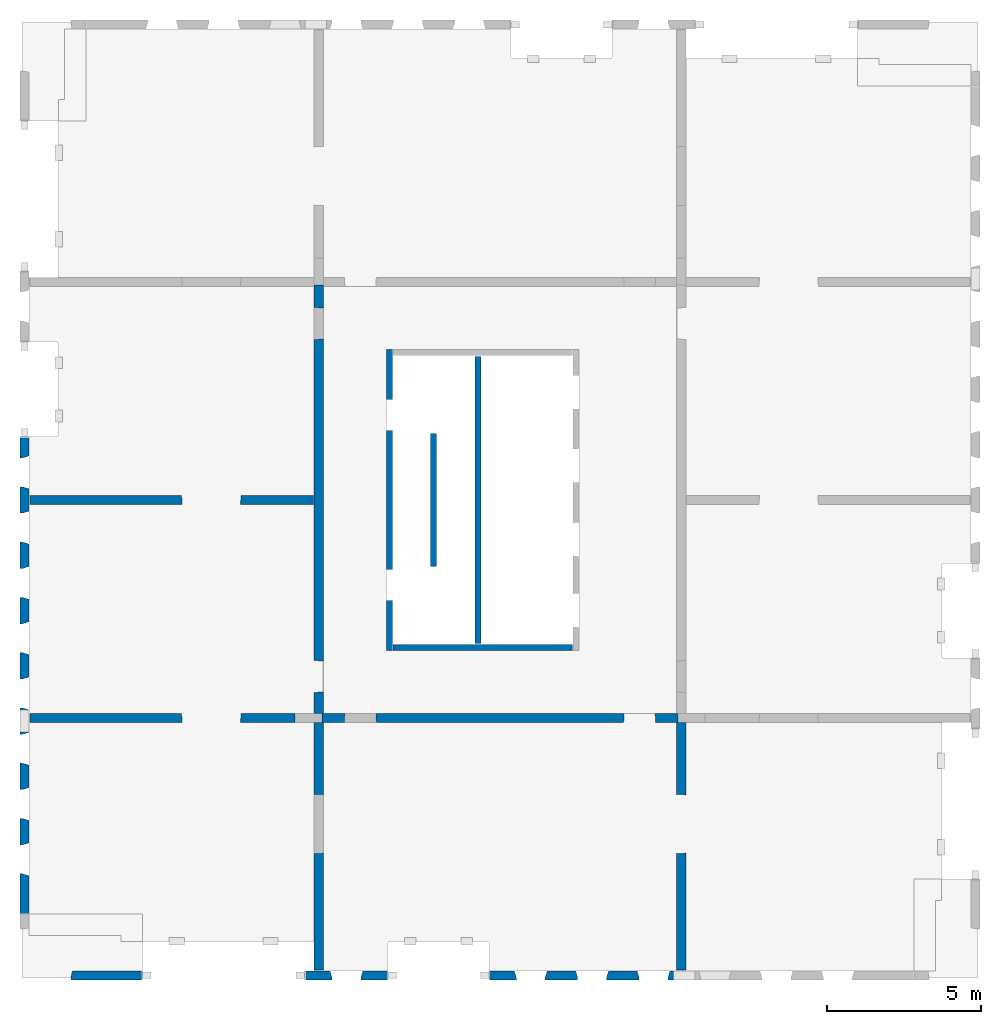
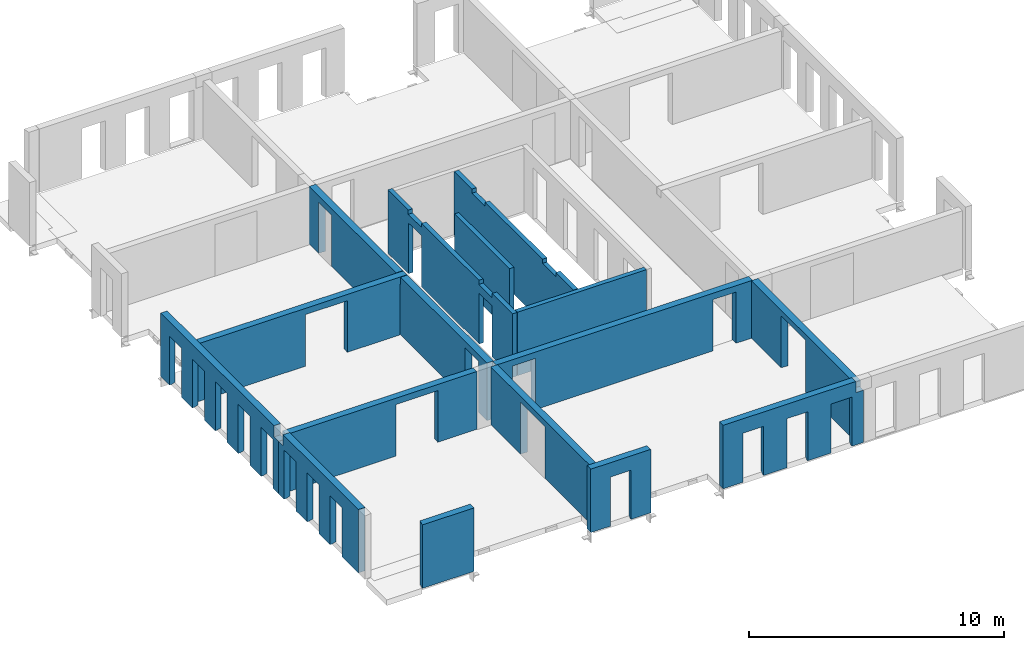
# One storey, part 2 of 5: 15 walls, 38 openings.
"""IFC2X3 building model written with IfcOpenShell, lengths in millimetres."""

from ifc_helpers import new_model, entity, si_unit, converted_unit, derived_unit, direction, frame, frame_2d, origin, origin_2d_with_axis, place, context, subcontext, project, spatial, rectangle, extrude, faceted_brep, material, layer, layer_set, layer_usage, type_object, element, save


model = new_model("IFC2X3")

# Units and contexts
model_context = context("Model", 3, precision=0.01, world=origin(), true_north=direction((6.12303176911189e-17, 1.0)))
body_context = subcontext(model_context, "Body", "Model", "MODEL_VIEW")
ifc_project = project(units=[si_unit("LENGTHUNIT", "METRE", prefix="MILLI"), si_unit("AREAUNIT", "SQUARE_METRE"), si_unit("VOLUMEUNIT", "CUBIC_METRE"), converted_unit("PLANEANGLEUNIT", "DEGREE", entity("IfcRatioMeasure", 0.0174532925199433), si_unit("PLANEANGLEUNIT", "RADIAN"), dimensions=[0, 0, 0, 0, 0, 0, 0]), si_unit("MASSUNIT", "GRAM", prefix="KILO"), derived_unit("MASSDENSITYUNIT", [(si_unit("MASSUNIT", "GRAM", prefix="KILO"), 1), (si_unit("LENGTHUNIT", "METRE"), -3)]), si_unit("TIMEUNIT", "SECOND"), si_unit("FREQUENCYUNIT", "HERTZ"), si_unit("THERMODYNAMICTEMPERATUREUNIT", "DEGREE_CELSIUS"), derived_unit("THERMALTRANSMITTANCEUNIT", [(si_unit("MASSUNIT", "GRAM", prefix="KILO"), 1), (si_unit("THERMODYNAMICTEMPERATUREUNIT", "KELVIN"), -1), (si_unit("TIMEUNIT", "SECOND"), -3)]), derived_unit("VOLUMETRICFLOWRATEUNIT", [(si_unit("LENGTHUNIT", "METRE"), 3), (si_unit("TIMEUNIT", "SECOND"), -1)]), si_unit("ELECTRICCURRENTUNIT", "AMPERE"), si_unit("ELECTRICVOLTAGEUNIT", "VOLT"), si_unit("POWERUNIT", "WATT"), si_unit("FORCEUNIT", "NEWTON", prefix="KILO"), si_unit("ILLUMINANCEUNIT", "LUX"), si_unit("LUMINOUSFLUXUNIT", "LUMEN"), si_unit("LUMINOUSINTENSITYUNIT", "CANDELA"), derived_unit("USERDEFINED", [(si_unit("MASSUNIT", "GRAM", prefix="KILO"), -1), (si_unit("LENGTHUNIT", "METRE"), -2), (si_unit("TIMEUNIT", "SECOND"), 3), (si_unit("LUMINOUSFLUXUNIT", "LUMEN"), 1)]), derived_unit("LINEARVELOCITYUNIT", [(si_unit("LENGTHUNIT", "METRE"), 1), (si_unit("TIMEUNIT", "SECOND"), -1)]), si_unit("PRESSUREUNIT", "PASCAL"), derived_unit("USERDEFINED", [(si_unit("LENGTHUNIT", "METRE"), -2), (si_unit("MASSUNIT", "GRAM", prefix="KILO"), 1), (si_unit("TIMEUNIT", "SECOND"), -2)])], contexts=[model_context])

# Site, building, storey
site_placement = place(None, origin())
site = spatial("IfcSite", under=ifc_project, at=site_placement, Name="Default", CompositionType="ELEMENT")
building_placement = place(site_placement, origin())
building = spatial("IfcBuilding", under=site, at=building_placement, Name="niet gebruiken", CompositionType="ELEMENT")
storey_placement = place(building_placement, frame((0.0, 0.0, 155700.0)))
storey = spatial("IfcBuildingStorey", under=building, at=storey_placement, Name="50 vijftigste verdieping", CompositionType="ELEMENT", Elevation=155700.0)

# Wall, openings
ifc_material = material(Name="NLRS_f2_beton prefab")
ifc_layer_1 = layer(ifc_material, 200.0)
ifc_layer_set_1 = layer_set([ifc_layer_1], Name="Basic Wall:NLRS_22.21_WA_beton prefab d=200_gen")
ifc_layer_usage_1 = layer_usage(ifc_layer_set_1, "AXIS2", "NEGATIVE", 100.0)
wall_type_1 = type_object("IfcWallType", Name="Basic Wall:NLRS_22.21_WA_beton prefab d=200_gen", PredefinedType="STANDARD", material=ifc_layer_set_1)
wall_1_placement = place(storey_placement, frame((138150.0, 22400.0, -50.0), z_axis=(0.0, 0.0, 1.0), x_axis=(0.0, -1.0, 0.0)))
wall_1 = element("IfcWallStandardCase", 1, at=wall_1_placement, inside=storey, type_object=wall_type_1, material=ifc_layer_usage_1, Name="Basic Wall:NLRS_22.21_WA_beton prefab d=200_gen", ObjectType="Basic Wall:NLRS_22.21_WA_beton prefab d=200_gen", context=body_context, shape_type="SweptSolid", body=[
    extrude(rectangle(XDim=9800.0, YDim=199.999999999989, at=frame_2d((4900.0, 3.76587649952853e-13), x_axis=(-1.0, 0.0))), origin(), (0.0, 0.0, 1.0), 3040.0),
])
opening_1_placement = place(wall_1_placement, origin())
element("IfcOpeningElement", 2, at=opening_1_placement, cuts=wall_1, Name="Basic Wall:NLRS_22.21_WA_beton prefab d=200_gen", ObjectType="Opening", context=body_context, shape_type="SweptSolid", body=[
    extrude(rectangle(XDim=200.000000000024, YDim=1044.0, at=origin_2d_with_axis()), frame((7672.0, -100.0, 2940.0), z_axis=(0.0, 1.0, 0.0), x_axis=(0.0, 0.0, -1.0)), (0.0, 0.0, 1.0), 199.999999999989),
])
opening_2_placement = place(wall_1_placement, origin())
element("IfcOpeningElement", 3, at=opening_2_placement, cuts=wall_1, Name="Basic Wall:NLRS_22.21_WA_beton prefab d=200_gen", ObjectType="Opening", context=body_context, shape_type="SweptSolid", body=[
    extrude(rectangle(XDim=200.000000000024, YDim=1044.0, at=frame_2d((0.0, 2.1600499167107e-12), x_axis=(1.0, 0.0))), frame((2128.0, -100.0, 2940.0), z_axis=(0.0, 1.0, 0.0), x_axis=(0.0, 0.0, -1.0)), (0.0, 0.0, 1.0), 199.999999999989),
])
opening_3_placement = place(wall_1_placement, origin())
element("IfcOpeningElement", 4, at=opening_3_placement, cuts=wall_1, Name="Basic Wall:NLRS_22.21_WA_beton prefab d=200_gen", ObjectType="Opening", context=body_context, shape_type="SweptSolid", body=[
    extrude(rectangle(XDim=2435.0, YDim=1015.99999999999, at=frame_2d((0.0, 1.10844666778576e-12), x_axis=(1.0, 0.0))), frame((7672.0, -100.0, 1217.50000000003), z_axis=(0.0, 1.0, 0.0), x_axis=(0.0, 0.0, -1.0)), (0.0, 0.0, 1.0), 199.999999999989),
])
opening_4_placement = place(wall_1_placement, origin())
element("IfcOpeningElement", 5, at=opening_4_placement, cuts=wall_1, Name="Basic Wall:NLRS_22.21_WA_beton prefab d=200_gen", ObjectType="Opening", context=body_context, shape_type="SweptSolid", body=[
    extrude(rectangle(XDim=2435.0, YDim=1015.99999999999, at=frame_2d((0.0, -2.18847162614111e-12), x_axis=(1.0, 0.0))), frame((2128.0, -100.0, 1217.50000000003), z_axis=(0.0, 1.0, 0.0), x_axis=(0.0, 0.0, -1.0)), (0.0, 0.0, 1.0), 199.999999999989),
])

ifc_layer_usage_2 = layer_usage(ifc_layer_set_1, "AXIS2", "NEGATIVE", 100.0)
wall_2_placement = place(storey_placement, frame((141030.0, 22180.0, -50.0), z_axis=(0.0, 0.0, 1.0), x_axis=(0.0, -1.0, 0.0)))
wall_2 = element("IfcWallStandardCase", 6, at=wall_2_placement, inside=storey, type_object=wall_type_1, material=ifc_layer_usage_2, Name="Basic Wall:NLRS_22.21_WA_beton prefab d=200_gen", ObjectType="Basic Wall:NLRS_22.21_WA_beton prefab d=200_gen", context=body_context, shape_type="SweptSolid", body=[
    extrude(rectangle(XDim=9360.0, YDim=199.999999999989, at=frame_2d((4680.0, -2.8421709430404e-14), x_axis=(-1.0, 0.0))), origin(), (0.0, 0.0, 1.0), 3040.0),
])
opening_5_placement = place(wall_2_placement, origin())
element("IfcOpeningElement", 7, at=opening_5_placement, cuts=wall_2, Name="Basic Wall:NLRS_22.21_WA_beton prefab d=200_gen", ObjectType="Opening", context=body_context, shape_type="SweptSolid", body=[
    extrude(rectangle(XDim=70.0000000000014, YDim=1044.00000000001, at=frame_2d((-8.66506866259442e-12, 0.0), x_axis=(1.0, 0.0))), frame((7452.0, -100.0, 35.0), z_axis=(0.0, 1.0, 0.0), x_axis=(0.0, 0.0, -1.0)), (0.0, 0.0, 1.0), 199.999999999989),
])
opening_6_placement = place(wall_2_placement, origin())
element("IfcOpeningElement", 8, at=opening_6_placement, cuts=wall_2, Name="Basic Wall:NLRS_22.21_WA_beton prefab d=200_gen", ObjectType="Opening", context=body_context, shape_type="SweptSolid", body=[
    extrude(rectangle(XDim=70.0000000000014, YDim=1044.00000000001, at=frame_2d((-8.66506866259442e-12, 0.0), x_axis=(1.0, 0.0))), frame((1908.0, -100.0, 35.0), z_axis=(0.0, 1.0, 0.0), x_axis=(0.0, 0.0, -1.0)), (0.0, 0.0, 1.0), 199.999999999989),
])
opening_7_placement = place(wall_2_placement, origin())
element("IfcOpeningElement", 9, at=opening_7_placement, cuts=wall_2, Name="Basic Wall:NLRS_22.21_WA_beton prefab d=200_gen", ObjectType="Opening", context=body_context, shape_type="SweptSolid", body=[
    extrude(rectangle(XDim=200.000000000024, YDim=1044.00000000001, at=origin_2d_with_axis()), frame((1908.0, -100.0, 2940.0), z_axis=(0.0, 1.0, 0.0), x_axis=(0.0, 0.0, -1.0)), (0.0, 0.0, 1.0), 199.999999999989),
])
opening_8_placement = place(wall_2_placement, origin())
element("IfcOpeningElement", 10, at=opening_8_placement, cuts=wall_2, Name="Basic Wall:NLRS_22.21_WA_beton prefab d=200_gen", ObjectType="Opening", context=body_context, shape_type="SweptSolid", body=[
    extrude(rectangle(XDim=200.000000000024, YDim=1044.00000000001, at=origin_2d_with_axis()), frame((7452.0, -100.0, 2940.0), z_axis=(0.0, 1.0, 0.0), x_axis=(0.0, 0.0, -1.0)), (0.0, 0.0, 1.0), 199.999999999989),
])
opening_9_placement = place(wall_2_placement, origin())
element("IfcOpeningElement", 11, at=opening_9_placement, cuts=wall_2, Name="Basic Wall:NLRS_22.21_WA_beton prefab d=200_gen", ObjectType="Recess", context=body_context, shape_type="SweptSolid", body=[
    extrude(rectangle(XDim=399.999999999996, YDim=280.000000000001, at=frame_2d((-2.1600499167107e-12, 8.66862137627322e-12), x_axis=(0.0, 1.0))), frame((770.0, -60.0, 438.0), z_axis=(0.0, 1.0, 0.0), x_axis=(1.0, 0.0, 0.0)), (0.0, 0.0, 1.0), 159.999999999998),
])
opening_10_placement = place(wall_2_placement, origin())
element("IfcOpeningElement", 12, at=opening_10_placement, cuts=wall_2, Name="Basic Wall:NLRS_22.21_WA_beton prefab d=200_gen", ObjectType="Recess", context=body_context, shape_type="SweptSolid", body=[
    extrude(rectangle(XDim=399.999999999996, YDim=280.000000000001, at=frame_2d((-2.1600499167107e-12, 8.66862137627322e-12), x_axis=(0.0, 1.0))), frame((1570.0, -60.0, 438.0), z_axis=(0.0, 1.0, 0.0), x_axis=(1.0, 0.0, 0.0)), (0.0, 0.0, 1.0), 159.999999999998),
])
opening_11_placement = place(wall_2_placement, origin())
element("IfcOpeningElement", 13, at=opening_11_placement, cuts=wall_2, Name="Basic Wall:NLRS_22.21_WA_beton prefab d=200_gen", ObjectType="Recess", context=body_context, shape_type="SweptSolid", body=[
    extrude(rectangle(XDim=399.999999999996, YDim=279.999999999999, at=frame_2d((-1.08002495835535e-12, 8.66862137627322e-12), x_axis=(0.0, 1.0))), frame((3160.0, -60.0, 438.0), z_axis=(0.0, 1.0, 0.0), x_axis=(1.0, 0.0, 0.0)), (0.0, 0.0, 1.0), 159.999999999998),
])
opening_12_placement = place(wall_2_placement, origin())
element("IfcOpeningElement", 14, at=opening_12_placement, cuts=wall_2, Name="Basic Wall:NLRS_22.21_WA_beton prefab d=200_gen", ObjectType="Recess", context=body_context, shape_type="SweptSolid", body=[
    extrude(rectangle(XDim=399.999999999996, YDim=279.999999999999, at=frame_2d((1.08002495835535e-12, 8.66862137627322e-12), x_axis=(0.0, 1.0))), frame((3960.0, -60.0, 438.0), z_axis=(0.0, 1.0, 0.0), x_axis=(1.0, 0.0, 0.0)), (0.0, 0.0, 1.0), 159.999999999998),
])

# Walls
ifc_layer_usage_3 = layer_usage(ifc_layer_set_1, "AXIS2", "NEGATIVE", 100.0)
wall_3_placement = place(storey_placement, frame((139590.0, 19660.0, -50.0), z_axis=(0.0, 0.0, 1.0), x_axis=(0.0, -1.0, 0.0)))
element("IfcWallStandardCase", 15, at=wall_3_placement, inside=storey, type_object=wall_type_1, material=ifc_layer_usage_3, Name="Basic Wall:NLRS_22.21_WA_beton prefab d=200_gen", ObjectType="Basic Wall:NLRS_22.21_WA_beton prefab d=200_gen", context=body_context, shape_type="SweptSolid", body=[
    extrude(rectangle(XDim=4320.00000000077, YDim=199.999999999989, at=frame_2d((2160.00000000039, 0.0), x_axis=(-1.0, 0.0))), origin(), (0.0, 0.0, 1.0), 3040.0),
])
ifc_layer_usage_4 = layer_usage(ifc_layer_set_1, "AXIS2", "NEGATIVE", 100.0)
wall_4_placement = place(storey_placement, frame((138270.0, 12700.0, -50.0)))
element("IfcWallStandardCase", 16, at=wall_4_placement, inside=storey, type_object=wall_type_1, material=ifc_layer_usage_4, Name="Basic Wall:NLRS_22.21_WA_beton prefab d=200_gen", ObjectType="Basic Wall:NLRS_22.21_WA_beton prefab d=200_gen", context=body_context, shape_type="SweptSolid", body=[
    extrude(rectangle(XDim=5839.99999999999, YDim=199.999999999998, at=frame_2d((2919.99999999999, -6.82121026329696e-13), x_axis=(-1.0, 0.0))), origin(), (0.0, 0.0, 1.0), 3040.0),
])

# Wall, opening
ifc_layer_2 = layer(ifc_material, 300.0)
ifc_layer_set_2 = layer_set([ifc_layer_2], Name="Basic Wall:NLRS_22.21_WA_beton prefab d=300_gen")
ifc_layer_usage_5 = layer_usage(ifc_layer_set_2, "AXIS2", "NEGATIVE", 150.0)
wall_type_2 = type_object("IfcWallType", Name="Basic Wall:NLRS_22.21_WA_beton prefab d=300_gen", PredefinedType="STANDARD", material=ifc_layer_set_2)
wall_5_placement = place(storey_placement, frame((135850.0, 10250.0, -60.0), z_axis=(0.0, 0.0, 1.0), x_axis=(0.0, -1.0, 0.0)))
wall_5 = element("IfcWallStandardCase", 17, at=wall_5_placement, inside=storey, type_object=wall_type_2, material=ifc_layer_usage_5, Name="Basic Wall:NLRS_22.21_WA_beton prefab d=300_gen", ObjectType="Basic Wall:NLRS_22.21_WA_beton prefab d=300_gen", context=body_context, shape_type="SweptSolid", body=[
    extrude(rectangle(XDim=8059.99999999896, YDim=300.000000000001, at=frame_2d((4029.99999999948, 1.22213350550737e-12), x_axis=(-1.0, 0.0))), origin(), (0.0, 0.0, 1.0), 2760.0),
])
opening_13_placement = place(wall_5_placement, frame((4268.0, -150.0, -10.0)))
element("IfcOpeningElement", 18, at=opening_13_placement, cuts=wall_5, Name="Basic Wall:NLRS_22.21_WA_beton prefab d=300_gen", ObjectType="Opening", context=body_context, shape_type="Brep", body=[
    faceted_brep([(-18.0, 300.0, 2470.0), (-18.0, 300.0, 0.0), (-1918.0, 300.0, 0.0), (-1918.0, 300.0, 2470.0), (0.0, 0.0, 2488.0), (-1936.0, 0.0, 2488.0), (-1936.0, 0.0, 0.0), (0.0, 0.0, 0.0)], [[[0, 1, 2, 3]], [[4, 5, 6, 7]], [[4, 0, 3, 5]], [[5, 3, 2, 6]], [[6, 2, 1, 7]], [[7, 1, 0, 4]]]),
])

ifc_layer_usage_6 = layer_usage(ifc_layer_set_2, "AXIS2", "NEGATIVE", 150.0)
wall_6_placement = place(storey_placement, frame((147650.0, 10250.0, -60.0), z_axis=(0.0, 0.0, 1.0), x_axis=(0.0, -1.0, 0.0)))
wall_6 = element("IfcWallStandardCase", 19, at=wall_6_placement, inside=storey, type_object=wall_type_2, material=ifc_layer_usage_6, Name="Basic Wall:NLRS_22.21_WA_beton prefab d=300_gen", ObjectType="Basic Wall:NLRS_22.21_WA_beton prefab d=300_gen", context=body_context, shape_type="SweptSolid", body=[
    extrude(rectangle(XDim=8059.99999999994, YDim=300.000000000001, at=frame_2d((4029.99999999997, 3.69482222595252e-13), x_axis=(-1.0, 0.0))), origin(), (0.0, 0.0, 1.0), 2760.0),
])
opening_14_placement = place(wall_6_placement, frame((4268.0, -150.0, -10.0)))
element("IfcOpeningElement", 20, at=opening_14_placement, cuts=wall_6, Name="Basic Wall:NLRS_22.21_WA_beton prefab d=300_gen", ObjectType="Opening", context=body_context, shape_type="Brep", body=[
    faceted_brep([(-18.0, 300.0, 2470.0), (-18.0, 300.0, 0.0), (-1918.0, 300.0, 0.0), (-1918.0, 300.0, 2470.0), (0.0, 0.0, 2488.0), (-1936.0, 0.0, 2488.0), (-1936.0, 0.0, 0.0), (0.0, 0.0, 0.0)], [[[0, 1, 2, 3]], [[4, 5, 6, 7]], [[4, 0, 3, 5]], [[5, 3, 2, 6]], [[6, 2, 1, 7]], [[7, 1, 0, 4]]]),
])

# Wall, openings
ifc_layer_usage_7 = layer_usage(ifc_layer_set_2, "AXIS2", "NEGATIVE", 150.0)
wall_7_placement = place(storey_placement, frame((135950.003540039, 10400.0, -60.0)))
wall_7 = element("IfcWallStandardCase", 21, at=wall_7_placement, inside=storey, type_object=wall_type_2, material=ifc_layer_usage_7, Name="Basic Wall:NLRS_22.21_WA_beton prefab d=300_gen", ObjectType="Basic Wall:NLRS_22.21_WA_beton prefab d=300_gen", context=body_context, shape_type="SweptSolid", body=[
    extrude(rectangle(XDim=11599.9964599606, YDim=300.000000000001, at=frame_2d((5799.99822998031, 1.70530256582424e-13), x_axis=(-1.0, 0.0))), origin(), (0.0, 0.0, 1.0), 2760.0),
])
opening_15_placement = place(wall_7_placement, frame((731.996459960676, -150.0, -10.0)))
element("IfcOpeningElement", 22, at=opening_15_placement, cuts=wall_7, Name="Basic Wall:NLRS_22.21_WA_beton prefab d=300_gen", ObjectType="Opening", context=body_context, shape_type="Brep", body=[
    faceted_brep([(0.0, 0.0, 2466.0), (18.0, 300.0, 2448.0), (18.0, 300.0, 0.0), (0.0, 0.0, 0.0), (1024.0, 300.0, 0.0), (1042.0, 0.0, 0.0), (1024.0, 300.0, 2448.0), (1042.0, 0.0, 2466.0)], [[[0, 1, 2, 3]], [[3, 2, 4, 5]], [[6, 4, 2, 1]], [[7, 0, 3, 5]], [[7, 6, 1, 0]], [[5, 4, 6, 7]]]),
])
opening_16_placement = place(wall_7_placement, frame((9825.99645996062, -150.0, -10.0)))
element("IfcOpeningElement", 23, at=opening_16_placement, cuts=wall_7, Name="Basic Wall:NLRS_22.21_WA_beton prefab d=300_gen", ObjectType="Opening", context=body_context, shape_type="Brep", body=[
    faceted_brep([(0.0, 0.0, 2466.0), (18.0, 300.0, 2448.0), (18.0, 300.0, 0.0), (0.0, 0.0, 0.0), (1024.0, 300.0, 0.0), (1042.0, 0.0, 0.0), (1024.0, 300.0, 2448.0), (1042.0, 0.0, 2466.0)], [[[0, 1, 2, 3]], [[3, 2, 4, 5]], [[6, 4, 2, 1]], [[7, 0, 3, 5]], [[7, 6, 1, 0]], [[5, 4, 6, 7]]]),
])

ifc_layer_usage_8 = layer_usage(ifc_layer_set_2, "AXIS2", "NEGATIVE", 150.0)
wall_8_placement = place(storey_placement, frame((126440.0, 17500.0, -70.0)))
wall_8 = element("IfcWallStandardCase", 24, at=wall_8_placement, inside=storey, type_object=wall_type_2, material=ifc_layer_usage_8, Name="Basic Wall:NLRS_22.21_WA_beton prefab d=300_gen", ObjectType="Basic Wall:NLRS_22.21_WA_beton prefab d=300_gen", context=body_context, shape_type="SweptSolid", body=[
    extrude(rectangle(XDim=9559.9999999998, YDim=300.000000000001, at=frame_2d((4779.9999999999, -5.54223333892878e-13), x_axis=(-1.0, 0.0))), origin(), (0.0, 0.0, 1.0), 2769.99999999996),
])
opening_17_placement = place(wall_8_placement, frame((4942.0, -150.0, 0.0)))
element("IfcOpeningElement", 25, at=opening_17_placement, cuts=wall_8, Name="Basic Wall:NLRS_22.21_WA_beton prefab d=300_gen", ObjectType="Opening", context=body_context, shape_type="Brep", body=[
    faceted_brep([(1918.0, 0.0, 2470.0), (18.0, 0.0, 2470.0), (18.0, 0.0, 0.0), (1918.0, 0.0, 0.0), (1936.0, 300.0, 2488.0), (1936.0, 300.0, 0.0), (0.0, 300.0, 0.0), (0.0, 300.0, 2488.0)], [[[0, 1, 2, 3]], [[4, 5, 6, 7]], [[4, 7, 1, 0]], [[7, 6, 2, 1]], [[6, 5, 3, 2]], [[5, 4, 0, 3]]]),
])
opening_18_placement = place(wall_8_placement, origin())
element("IfcOpeningElement", 26, at=opening_18_placement, cuts=wall_8, Name="Basic Wall:NLRS_22.21_WA_beton prefab d=300_gen", ObjectType="Opening", context=body_context, shape_type="SweptSolid", body=[
    extrude(rectangle(XDim=2439.99999999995, YDim=319.999999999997, at=frame_2d((0.0, 2.59205990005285e-11), x_axis=(0.0, 1.0))), frame((9400.0, 150.0, 1220.0), z_axis=(0.0, -1.0, 0.0), x_axis=(1.0, 0.0, 0.0)), (0.0, 0.0, 1.0), 300.0),
])

# Wall, opening
ifc_layer_usage_9 = layer_usage(ifc_layer_set_2, "AXIS2", "NEGATIVE", 150.0)
wall_9_placement = place(storey_placement, frame((126440.0, 10400.0, -70.0)))
wall_9 = element("IfcWallStandardCase", 27, at=wall_9_placement, inside=storey, type_object=wall_type_2, material=ifc_layer_usage_9, Name="Basic Wall:NLRS_22.21_WA_beton prefab d=300_gen", ObjectType="Basic Wall:NLRS_22.21_WA_beton prefab d=300_gen", context=body_context, shape_type="SweptSolid", body=[
    extrude(rectangle(XDim=8630.00354003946, YDim=300.000000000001, at=frame_2d((4315.00177001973, -2.70006239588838e-13), x_axis=(-1.0, 0.0))), origin(), (0.0, 0.0, 1.0), 2769.99999999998),
])
opening_19_placement = place(wall_9_placement, frame((4942.0, -150.0, 0.0)))
element("IfcOpeningElement", 28, at=opening_19_placement, cuts=wall_9, Name="Basic Wall:NLRS_22.21_WA_beton prefab d=300_gen", ObjectType="Opening", context=body_context, shape_type="Brep", body=[
    faceted_brep([(1918.0, 0.0, 2470.0), (18.0, 0.0, 2470.0), (18.0, 0.0, 0.0), (1918.0, 0.0, 0.0), (1936.0, 300.0, 2488.0), (1936.0, 300.0, 0.0), (0.0, 300.0, 0.0), (0.0, 300.0, 2488.0)], [[[0, 1, 2, 3]], [[4, 5, 6, 7]], [[4, 7, 1, 0]], [[7, 6, 2, 1]], [[6, 5, 3, 2]], [[5, 4, 0, 3]]]),
])

# Wall, openings
ifc_layer_usage_10 = layer_usage(ifc_layer_set_2, "AXIS2", "NEGATIVE", 150.0)
wall_10_placement = place(storey_placement, frame((135850.0, 24500.0, -60.0), z_axis=(0.0, 0.0, 1.0), x_axis=(0.0, -1.0, 0.0)))
wall_10 = element("IfcWallStandardCase", 29, at=wall_10_placement, inside=storey, type_object=wall_type_2, material=ifc_layer_usage_10, Name="Basic Wall:NLRS_22.21_WA_beton prefab d=300_gen", ObjectType="Basic Wall:NLRS_22.21_WA_beton prefab d=300_gen", context=body_context, shape_type="SweptSolid", body=[
    extrude(rectangle(XDim=13949.999999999, YDim=300.000000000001, at=frame_2d((6974.99999999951, 4.2632564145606e-14), x_axis=(-1.0, 0.0))), origin(), (0.0, 0.0, 1.0), 2760.0),
])
opening_20_placement = place(wall_10_placement, frame((13268.0, -150.0, -10.0)))
element("IfcOpeningElement", 30, at=opening_20_placement, cuts=wall_10, Name="Basic Wall:NLRS_22.21_WA_beton prefab d=300_gen", ObjectType="Opening", context=body_context, shape_type="Brep", body=[
    faceted_brep([(-1042.0, 0.0, 2466.0), (-1024.0, 300.0, 2448.0), (-1024.0, 300.0, 0.0), (-1042.0, 0.0, 0.0), (-18.0, 300.0, 0.0), (0.0, 0.0, 0.0), (-18.0, 300.0, 2448.0), (0.0, 0.0, 2466.0)], [[[0, 1, 2, 3]], [[3, 2, 4, 5]], [[6, 4, 2, 1]], [[7, 0, 3, 5]], [[7, 6, 1, 0]], [[5, 4, 6, 7]]]),
])
opening_21_placement = place(wall_10_placement, frame((1774.0, -150.0, -10.0)))
element("IfcOpeningElement", 31, at=opening_21_placement, cuts=wall_10, Name="Basic Wall:NLRS_22.21_WA_beton prefab d=300_gen", ObjectType="Opening", context=body_context, shape_type="Brep", body=[
    faceted_brep([(-1042.0, 0.0, 2466.0), (-1024.0, 300.0, 2448.0), (-1024.0, 300.0, 0.0), (-1042.0, 0.0, 0.0), (-18.0, 300.0, 0.0), (0.0, 0.0, 0.0), (-18.0, 300.0, 2448.0), (0.0, 0.0, 2466.0)], [[[0, 1, 2, 3]], [[3, 2, 4, 5]], [[6, 4, 2, 1]], [[7, 0, 3, 5]], [[7, 6, 1, 0]], [[5, 4, 6, 7]]]),
])
opening_22_placement = place(wall_10_placement, origin())
element("IfcOpeningElement", 32, at=opening_22_placement, cuts=wall_10, Name="Basic Wall:NLRS_22.21_WA_beton prefab d=300_gen", ObjectType="Opening", context=body_context, shape_type="SweptSolid", body=[
    extrude(rectangle(XDim=350.000000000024, YDim=339.999999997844, at=frame_2d((0.0, 0.0), x_axis=(0.0, 1.0))), frame((7000.0, 150.0, 2585.0), z_axis=(0.0, -1.0, 0.0), x_axis=(-1.0, 0.0, 0.0)), (0.0, 0.0, 1.0), 300.0),
])

# Wall, opening
ifc_layer_3 = layer(ifc_material, 300.0)
ifc_layer_set_3 = layer_set([ifc_layer_3], Name="Basic Wall:NLRS_21.21_WA_beton prefab d=300/320_gen")
ifc_layer_usage_11 = layer_usage(ifc_layer_set_3, "AXIS2", "NEGATIVE", 150.0)
wall_type_3 = type_object("IfcWallType", Name="Basic Wall:NLRS_21.21_WA_beton prefab d=300/320_gen", PredefinedType="STANDARD", material=ifc_layer_set_3)
wall_11_placement = place(storey_placement, frame((138110.0, 2020.0, -50.0), z_axis=(0.0, 0.0, 1.0), x_axis=(-1.0, 0.0, 0.0)))
wall_11 = element("IfcWallStandardCase", 33, at=wall_11_placement, inside=storey, type_object=wall_type_3, material=ifc_layer_usage_11, Name="Basic Wall:NLRS_21.21_WA_beton prefab d=300/320_gen", ObjectType="Basic Wall:NLRS_21.21_WA_beton prefab d=300/320_gen", context=body_context, shape_type="SweptSolid", body=[
    extrude(rectangle(XDim=2720.00000000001, YDim=300.0, at=frame_2d((1360.0, -8.5265128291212e-14), x_axis=(-1.0, 0.0))), origin(), (0.0, 0.0, 1.0), 3040.0),
])
opening_23_placement = place(wall_11_placement, frame((1895.0, 150.0, -20.0)))
element("IfcOpeningElement", 34, at=opening_23_placement, cuts=wall_11, Name="Basic Wall:NLRS_21.21_WA_beton prefab d=300/320_gen", ObjectType="Opening", context=body_context, shape_type="Brep", body=[
    faceted_brep([(-1070.0, -300.0, 2405.0), (-1070.0, -300.0, 0.0), (0.0, -300.0, 0.0), (0.0, -300.0, 2405.0), (-65.0, -81.0, 2370.0), (-1005.0, -81.0, 2370.0), (-65.0, -81.0, 0.0), (-1005.0, -81.0, 0.0), (-1005.0, 0.0, 0.0), (-65.0, 0.0, 0.0), (-1005.0, 0.0, 2370.0), (-65.0, 0.0, 2370.0)], [[[0, 1, 2, 3]], [[3, 4, 5, 0]], [[2, 6, 4, 3]], [[1, 7, 8, 9, 6, 2]], [[0, 5, 7, 1]], [[10, 11, 9, 8]], [[10, 5, 4, 11]], [[11, 4, 6, 9]], [[8, 7, 5, 10]]]),
])

# Wall, openings
ifc_layer_usage_12 = layer_usage(ifc_layer_set_3, "AXIS2", "NEGATIVE", 150.0)
wall_12_placement = place(storey_placement, frame((126270.0, 4040.0, -50.0), z_axis=(0.0, 0.0, 1.0), x_axis=(0.0, 1.0, 0.0)))
wall_12 = element("IfcWallStandardCase", 35, at=wall_12_placement, inside=storey, type_object=wall_type_3, material=ifc_layer_usage_12, Name="Basic Wall:NLRS_21.21_WA_beton prefab d=300/320_gen", ObjectType="Basic Wall:NLRS_21.21_WA_beton prefab d=300/320_gen", context=body_context, shape_type="SweptSolid", body=[
    extrude(rectangle(XDim=6249.99999999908, YDim=300.000000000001, at=frame_2d((3124.99999999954, 0.0), x_axis=(-1.0, 0.0))), origin(), (0.0, 0.0, 1.0), 3039.99999999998),
])
opening_24_placement = place(wall_12_placement, frame((1225.0, 150.0, -20.0)))
element("IfcOpeningElement", 36, at=opening_24_placement, cuts=wall_12, Name="Basic Wall:NLRS_21.21_WA_beton prefab d=300/320_gen", ObjectType="Opening", context=body_context, shape_type="Brep", body=[
    faceted_brep([(0.0, -300.0, 2405.0), (0.0, -300.0, 0.0), (1070.0, -300.0, 0.0), (1070.0, -300.0, 2405.0), (1005.0, -81.0, 2370.0), (65.0, -81.0, 2370.0), (1005.0, -81.0, 0.0), (65.0, -81.0, 0.0), (65.0, 0.0, 0.0), (1005.0, 0.0, 0.0), (65.0, 0.0, 2370.0), (1005.0, 0.0, 2370.0)], [[[0, 1, 2, 3]], [[3, 4, 5, 0]], [[2, 6, 4, 3]], [[1, 7, 8, 9, 6, 2]], [[0, 5, 7, 1]], [[10, 11, 9, 8]], [[10, 5, 4, 11]], [[11, 4, 6, 9]], [[8, 7, 5, 10]]]),
])
opening_25_placement = place(wall_12_placement, frame((3025.0, 150.0, -20.0)))
element("IfcOpeningElement", 37, at=opening_25_placement, cuts=wall_12, Name="Basic Wall:NLRS_21.21_WA_beton prefab d=300/320_gen", ObjectType="Opening", context=body_context, shape_type="Brep", body=[
    faceted_brep([(0.0, -300.0, 2405.0), (0.0, -300.0, 0.0), (1070.0, -300.0, 0.0), (1070.0, -300.0, 2405.0), (1005.0, -81.0, 2370.0), (65.0, -81.0, 2370.0), (1005.0, -81.0, 0.0), (65.0, -81.0, 0.0), (65.0, 0.0, 0.0), (1005.0, 0.0, 0.0), (65.0, 0.0, 2370.0), (1005.0, 0.0, 2370.0)], [[[0, 1, 2, 3]], [[3, 4, 5, 0]], [[2, 6, 4, 3]], [[1, 7, 8, 9, 6, 2]], [[0, 5, 7, 1]], [[10, 11, 9, 8]], [[10, 5, 4, 11]], [[11, 4, 6, 9]], [[8, 7, 5, 10]]]),
])
opening_26_placement = place(wall_12_placement, frame((4825.0, 150.0, -20.0)))
element("IfcOpeningElement", 38, at=opening_26_placement, cuts=wall_12, Name="Basic Wall:NLRS_21.21_WA_beton prefab d=300/320_gen", ObjectType="Opening", context=body_context, shape_type="Brep", body=[
    faceted_brep([(0.0, -300.0, 2405.0), (0.0, -300.0, 0.0), (1070.0, -300.0, 0.0), (1070.0, -300.0, 2405.0), (1005.0, -81.0, 2370.0), (65.0, -81.0, 2370.0), (1005.0, -81.0, 0.0), (65.0, -81.0, 0.0), (65.0, 0.0, 0.0), (1005.0, 0.0, 0.0), (65.0, 0.0, 2370.0), (1005.0, 0.0, 2370.0)], [[[0, 1, 2, 3]], [[3, 4, 5, 0]], [[2, 6, 4, 3]], [[1, 7, 8, 9, 6, 2]], [[0, 5, 7, 1]], [[10, 11, 9, 8]], [[10, 5, 4, 11]], [[11, 4, 6, 9]], [[8, 7, 5, 10]]]),
])
opening_27_placement = place(wall_12_placement, origin())
element("IfcOpeningElement", 39, at=opening_27_placement, cuts=wall_12, Name="Basic Wall:NLRS_21.21_WA_beton prefab d=300/320_gen", ObjectType="Opening", context=body_context, shape_type="SweptSolid", body=[
    extrude(rectangle(XDim=534.99999999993, YDim=344.999999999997, at=frame_2d((0.0, 1.08002495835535e-12), x_axis=(1.0, 0.0))), frame((6077.49999999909, 150.0, 2772.49999999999), z_axis=(0.0, -1.0, 0.0), x_axis=(0.0, 0.0, 1.0)), (0.0, 0.0, 1.0), 300.0),
])

# Wall, opening
ifc_layer_usage_13 = layer_usage(ifc_layer_set_3, "AXIS2", "NEGATIVE", 150.0)
wall_13_placement = place(storey_placement, frame((130110.0, 2020.0, -50.0), z_axis=(0.0, 0.0, 1.0), x_axis=(-1.0, 0.0, 0.0)))
wall_13 = element("IfcWallStandardCase", 40, at=wall_13_placement, inside=storey, type_object=wall_type_3, material=ifc_layer_usage_13, Name="Basic Wall:NLRS_21.21_WA_beton prefab d=300/320_gen", ObjectType="Basic Wall:NLRS_21.21_WA_beton prefab d=300/320_gen", context=body_context, shape_type="SweptSolid", body=[
    extrude(rectangle(XDim=2330.00000000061, YDim=300.0, at=frame_2d((1165.00000000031, -5.6843418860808e-14), x_axis=(-1.0, 0.0))), origin(), (0.0, 0.0, 1.0), 3040.0),
])
opening_28_placement = place(wall_13_placement, frame((2330.0, 69.0, 0.0)))
element("IfcOpeningElement", 41, at=opening_28_placement, cuts=wall_13, Name="Basic Wall:NLRS_21.21_WA_beton prefab d=300/320_gen", ObjectType="Opening", context=body_context, shape_type="Brep", body=[
    faceted_brep([(0.0, -319.0, 3040.0), (0.0, 0.0, 3040.0), (-65.0, -319.0, 3040.0), (0.0, -319.0, 0.0), (-65.0, -319.0, 0.0), (0.0, 0.0, 0.0)], [[[0, 1, 2]], [[3, 4, 5]], [[2, 4, 3, 0]], [[0, 3, 5, 1]], [[1, 5, 4, 2]]]),
])

# Wall, openings
ifc_layer_usage_14 = layer_usage(ifc_layer_set_3, "AXIS2", "NEGATIVE", 150.0)
wall_14_placement = place(storey_placement, frame((126270.0, 10310.0, -50.0), z_axis=(0.0, 0.0, 1.0), x_axis=(0.0, 1.0, 0.0)))
wall_14 = element("IfcWallStandardCase", 42, at=wall_14_placement, inside=storey, type_object=wall_type_3, material=ifc_layer_usage_14, Name="Basic Wall:NLRS_21.21_WA_beton prefab d=300/320_gen", ObjectType="Basic Wall:NLRS_21.21_WA_beton prefab d=300/320_gen", context=body_context, shape_type="SweptSolid", body=[
    extrude(rectangle(XDim=9250.00000000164, YDim=300.000000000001, at=frame_2d((4625.00000000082, 0.0), x_axis=(-1.0, 0.0))), origin(), (0.0, 0.0, 1.0), 3040.0),
])
opening_29_placement = place(wall_14_placement, frame((7555.0, 150.0, -20.0)))
element("IfcOpeningElement", 43, at=opening_29_placement, cuts=wall_14, Name="Basic Wall:NLRS_21.21_WA_beton prefab d=300/320_gen", ObjectType="Opening", context=body_context, shape_type="Brep", body=[
    faceted_brep([(0.0, -300.0, 2405.0), (0.0, -300.0, 0.0), (1070.0, -300.0, 0.0), (1070.0, -300.0, 2405.0), (1005.0, -81.0, 2370.0), (65.0, -81.0, 2370.0), (1005.0, -81.0, 0.0), (65.0, -81.0, 0.0), (65.0, 0.0, 0.0), (1005.0, 0.0, 0.0), (65.0, 0.0, 2370.0), (1005.0, 0.0, 2370.0)], [[[0, 1, 2, 3]], [[3, 4, 5, 0]], [[2, 6, 4, 3]], [[1, 7, 8, 9, 6, 2]], [[0, 5, 7, 1]], [[10, 11, 9, 8]], [[10, 5, 4, 11]], [[11, 4, 6, 9]], [[8, 7, 5, 10]]]),
])
opening_30_placement = place(wall_14_placement, frame((3955.0, 150.0, -20.0)))
element("IfcOpeningElement", 44, at=opening_30_placement, cuts=wall_14, Name="Basic Wall:NLRS_21.21_WA_beton prefab d=300/320_gen", ObjectType="Opening", context=body_context, shape_type="Brep", body=[
    faceted_brep([(0.0, -300.0, 2405.0), (0.0, -300.0, 0.0), (1070.0, -300.0, 0.0), (1070.0, -300.0, 2405.0), (1005.0, -81.0, 2370.0), (65.0, -81.0, 2370.0), (1005.0, -81.0, 0.0), (65.0, -81.0, 0.0), (65.0, 0.0, 0.0), (1005.0, 0.0, 0.0), (65.0, 0.0, 2370.0), (1005.0, 0.0, 2370.0)], [[[0, 1, 2, 3]], [[3, 4, 5, 0]], [[2, 6, 4, 3]], [[1, 7, 8, 9, 6, 2]], [[0, 5, 7, 1]], [[10, 11, 9, 8]], [[10, 5, 4, 11]], [[11, 4, 6, 9]], [[8, 7, 5, 10]]]),
])
opening_31_placement = place(wall_14_placement, frame((2155.0, 150.0, -20.0)))
element("IfcOpeningElement", 45, at=opening_31_placement, cuts=wall_14, Name="Basic Wall:NLRS_21.21_WA_beton prefab d=300/320_gen", ObjectType="Opening", context=body_context, shape_type="Brep", body=[
    faceted_brep([(0.0, -300.0, 2405.0), (0.0, -300.0, 0.0), (1070.0, -300.0, 0.0), (1070.0, -300.0, 2405.0), (1005.0, -81.0, 2370.0), (65.0, -81.0, 2370.0), (1005.0, -81.0, 0.0), (65.0, -81.0, 0.0), (65.0, 0.0, 0.0), (1005.0, 0.0, 0.0), (65.0, 0.0, 2370.0), (1005.0, 0.0, 2370.0)], [[[0, 1, 2, 3]], [[3, 4, 5, 0]], [[2, 6, 4, 3]], [[1, 7, 8, 9, 6, 2]], [[0, 5, 7, 1]], [[10, 11, 9, 8]], [[10, 5, 4, 11]], [[11, 4, 6, 9]], [[8, 7, 5, 10]]]),
])
opening_32_placement = place(wall_14_placement, frame((5755.0, 150.0, -20.0)))
element("IfcOpeningElement", 46, at=opening_32_placement, cuts=wall_14, Name="Basic Wall:NLRS_21.21_WA_beton prefab d=300/320_gen", ObjectType="Opening", context=body_context, shape_type="Brep", body=[
    faceted_brep([(0.0, -300.0, 2405.0), (0.0, -300.0, 0.0), (1070.0, -300.0, 0.0), (1070.0, -300.0, 2405.0), (1005.0, -81.0, 2370.0), (65.0, -81.0, 2370.0), (1005.0, -81.0, 0.0), (65.0, -81.0, 0.0), (65.0, 0.0, 0.0), (1005.0, 0.0, 0.0), (65.0, 0.0, 2370.0), (1005.0, 0.0, 2370.0)], [[[0, 1, 2, 3]], [[3, 4, 5, 0]], [[2, 6, 4, 3]], [[1, 7, 8, 9, 6, 2]], [[0, 5, 7, 1]], [[10, 11, 9, 8]], [[10, 5, 4, 11]], [[11, 4, 6, 9]], [[8, 7, 5, 10]]]),
])
opening_33_placement = place(wall_14_placement, frame((355.0, 150.0, -20.0)))
element("IfcOpeningElement", 47, at=opening_33_placement, cuts=wall_14, Name="Basic Wall:NLRS_21.21_WA_beton prefab d=300/320_gen", ObjectType="Opening", context=body_context, shape_type="Brep", body=[
    faceted_brep([(1070.0, -300.0, 2405.0), (0.0, -300.0, 2405.0), (0.0, -300.0, 0.0), (1070.0, -300.0, 0.0), (1005.0, -81.0, 2370.0), (65.0, -81.0, 2370.0), (65.0, -81.0, 0.0), (65.0, 0.0, 0.0), (1005.0, 0.0, 0.0), (1005.0, -81.0, 0.0), (1005.0, 0.0, 2370.0), (65.0, 0.0, 2370.0)], [[[0, 1, 2, 3]], [[1, 0, 4, 5]], [[2, 1, 5, 6]], [[3, 2, 6, 7, 8, 9]], [[0, 3, 9, 4]], [[10, 8, 7, 11]], [[10, 11, 5, 4]], [[11, 7, 6, 5]], [[8, 10, 4, 9]]]),
])
opening_34_placement = place(wall_14_placement, origin())
element("IfcOpeningElement", 48, at=opening_34_placement, cuts=wall_14, Name="Basic Wall:NLRS_21.21_WA_beton prefab d=300/320_gen", ObjectType="Opening", context=body_context, shape_type="SweptSolid", body=[
    extrude(rectangle(XDim=535.0, YDim=345.000000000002, at=frame_2d((1.08002495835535e-12, 0.0), x_axis=(0.0, 1.0))), frame((172.500000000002, 150.0, 2772.5), z_axis=(0.0, -1.0, 0.0), x_axis=(-1.0, 0.0, 0.0)), (0.0, 0.0, 1.0), 300.0),
])

ifc_layer_usage_15 = layer_usage(ifc_layer_set_3, "AXIS2", "NEGATIVE", 150.0)
wall_15_placement = place(storey_placement, frame((147740.0, 2020.0, -50.0), z_axis=(0.0, 0.0, 1.0), x_axis=(-1.0, 0.0, 0.0)))
wall_15 = element("IfcWallStandardCase", 49, at=wall_15_placement, inside=storey, type_object=wall_type_3, material=ifc_layer_usage_15, Name="Basic Wall:NLRS_21.21_WA_beton prefab d=300/320_gen", ObjectType="Basic Wall:NLRS_21.21_WA_beton prefab d=300/320_gen", context=body_context, shape_type="SweptSolid", body=[
    extrude(rectangle(XDim=6350.00000000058, YDim=300.0, at=frame_2d((3175.00000000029, -4.2632564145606e-14), x_axis=(-1.0, 0.0))), origin(), (0.0, 0.0, 1.0), 3040.0),
])
opening_35_placement = place(wall_15_placement, frame((1525.0, 150.0, -20.0)))
element("IfcOpeningElement", 50, at=opening_35_placement, cuts=wall_15, Name="Basic Wall:NLRS_21.21_WA_beton prefab d=300/320_gen", ObjectType="Opening", context=body_context, shape_type="Brep", body=[
    faceted_brep([(0.0, -300.0, 2405.0), (-1070.0, -300.0, 2405.0), (-1070.0, -300.0, 0.0), (0.0, -300.0, 0.0), (-65.0, -81.0, 2370.0), (-1005.0, -81.0, 2370.0), (-1005.0, -81.0, 0.0), (-1005.0, 0.0, 0.0), (-65.0, 0.0, 0.0), (-65.0, -81.0, 0.0), (-65.0, 0.0, 2370.0), (-1005.0, 0.0, 2370.0)], [[[0, 1, 2, 3]], [[1, 0, 4, 5]], [[2, 1, 5, 6]], [[3, 2, 6, 7, 8, 9]], [[0, 3, 9, 4]], [[10, 8, 7, 11]], [[10, 11, 5, 4]], [[11, 7, 6, 5]], [[8, 10, 4, 9]]]),
])
opening_36_placement = place(wall_15_placement, frame((3525.0, 150.0, -20.0)))
element("IfcOpeningElement", 51, at=opening_36_placement, cuts=wall_15, Name="Basic Wall:NLRS_21.21_WA_beton prefab d=300/320_gen", ObjectType="Opening", context=body_context, shape_type="Brep", body=[
    faceted_brep([(0.0, -300.0, 2405.0), (-1070.0, -300.0, 2405.0), (-1070.0, -300.0, 0.0), (0.0, -300.0, 0.0), (-65.0, -81.0, 2370.0), (-1005.0, -81.0, 2370.0), (-1005.0, -81.0, 0.0), (-1005.0, 0.0, 0.0), (-65.0, 0.0, 0.0), (-65.0, -81.0, 0.0), (-65.0, 0.0, 2370.0), (-1005.0, 0.0, 2370.0)], [[[0, 1, 2, 3]], [[1, 0, 4, 5]], [[2, 1, 5, 6]], [[3, 2, 6, 7, 8, 9]], [[0, 3, 9, 4]], [[10, 8, 7, 11]], [[10, 11, 5, 4]], [[11, 7, 6, 5]], [[8, 10, 4, 9]]]),
])
opening_37_placement = place(wall_15_placement, frame((5525.0, 150.0, -20.0)))
element("IfcOpeningElement", 52, at=opening_37_placement, cuts=wall_15, Name="Basic Wall:NLRS_21.21_WA_beton prefab d=300/320_gen", ObjectType="Opening", context=body_context, shape_type="Brep", body=[
    faceted_brep([(0.0, -300.0, 2405.0), (-1070.0, -300.0, 2405.0), (-1070.0, -300.0, 0.0), (0.0, -300.0, 0.0), (-65.0, -81.0, 2370.0), (-1005.0, -81.0, 2370.0), (-1005.0, -81.0, 0.0), (-1005.0, 0.0, 0.0), (-65.0, 0.0, 0.0), (-65.0, -81.0, 0.0), (-65.0, 0.0, 2370.0), (-1005.0, 0.0, 2370.0)], [[[0, 1, 2, 3]], [[1, 0, 4, 5]], [[2, 1, 5, 6]], [[3, 2, 6, 7, 8, 9]], [[0, 3, 9, 4]], [[10, 8, 7, 11]], [[10, 11, 5, 4]], [[11, 7, 6, 5]], [[8, 10, 4, 9]]]),
])
opening_38_placement = place(wall_15_placement, origin())
element("IfcOpeningElement", 53, at=opening_38_placement, cuts=wall_15, Name="Basic Wall:NLRS_21.21_WA_beton prefab d=300/320_gen", ObjectType="Opening", context=body_context, shape_type="SweptSolid", body=[
    extrude(rectangle(XDim=534.999999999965, YDim=345.000000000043, at=frame_2d((0.0, -1.73372427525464e-11), x_axis=(0.0, 1.0))), frame((172.500000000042, 150.0, 2772.5), z_axis=(0.0, -1.0, 0.0), x_axis=(-1.0, 0.0, 0.0)), (0.0, 0.0, 1.0), 300.0),
])

save(model, "model.ifc")
